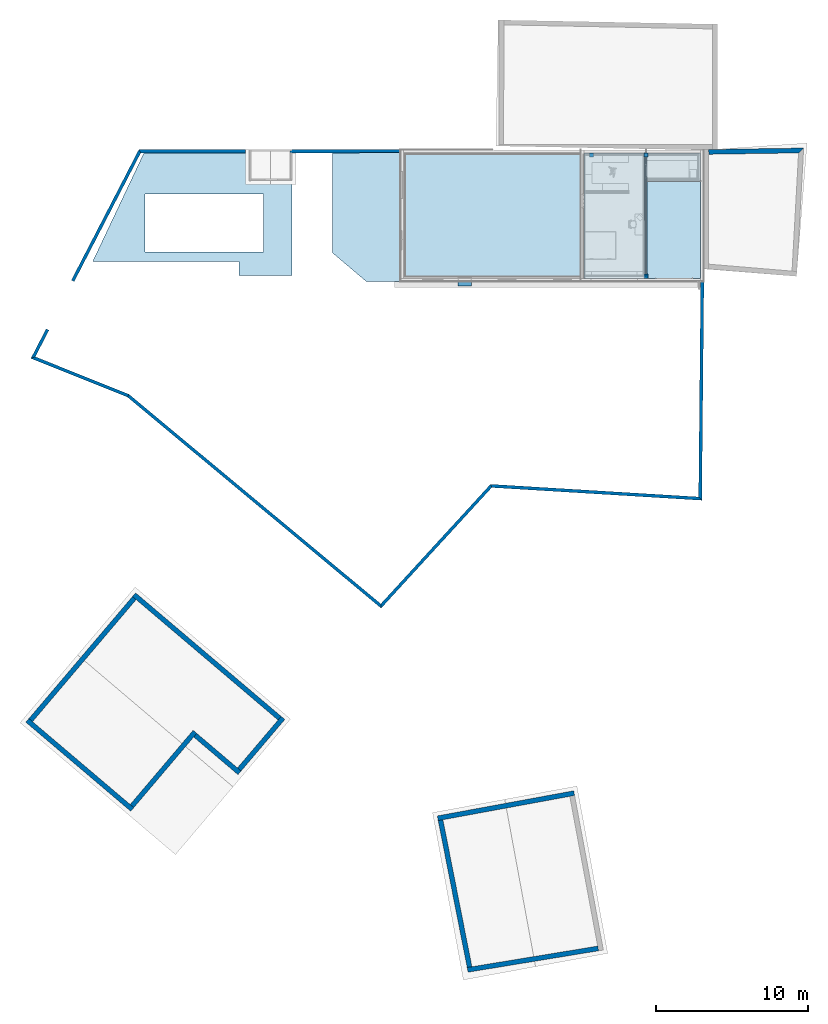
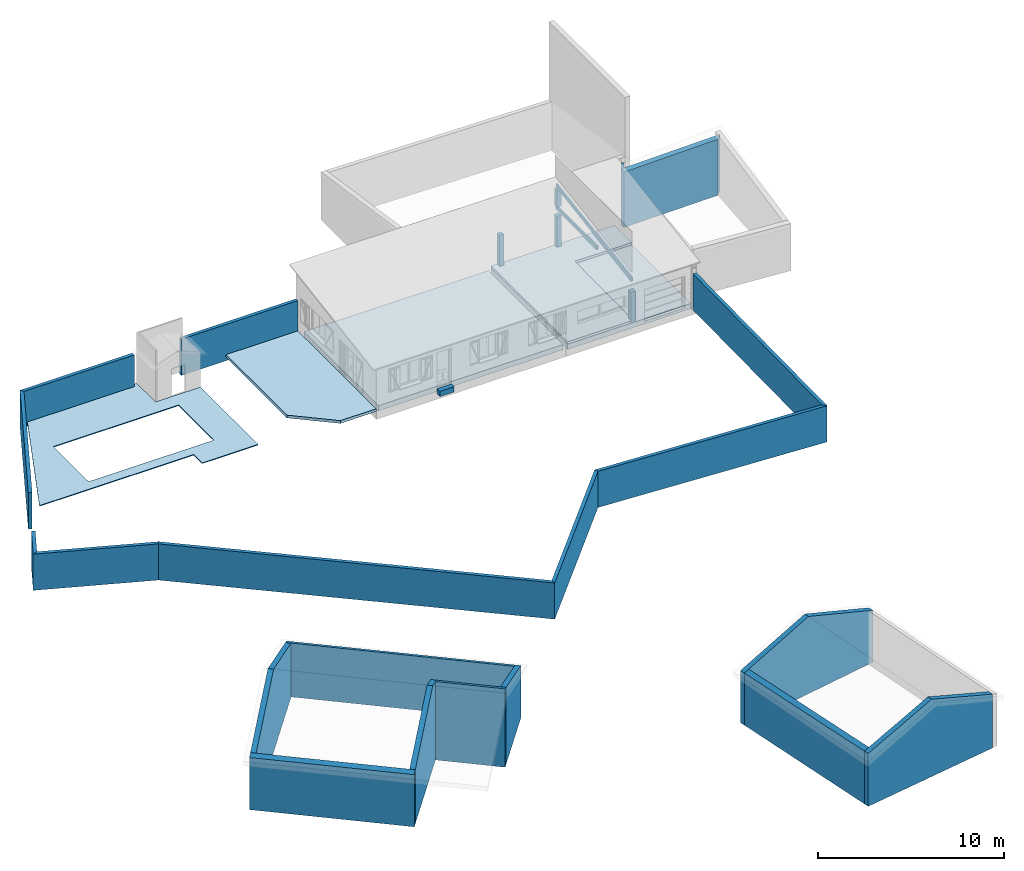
# One storey, part 1 of 24: 19 walls, 6 slabs, 4 columns, 2 beams, 1 opening.
"""IFC2X3 building model written with IfcOpenShell, lengths in metres."""

from ifc_helpers import new_model, entity, si_unit, converted_unit, derived_unit, money_unit, direction, frame, origin_with_axes, origin_2d_with_axis, place, context, subcontext, project, spatial, polyline, rectangle, outline, extrude, boolean, clip, halfspace, bounded_halfspace, faceted_brep, material, layer, layer_set, layer_usage, type_object, element, save


model = new_model("IFC2X3")

# Units and contexts
model_context = context("Model", 3, precision=1e-05, world=origin_with_axes(), true_north=direction((0.0, 1.0)))
body_context = subcontext(model_context, "Body", "Model", "MODEL_VIEW")
ifc_project = project(units=[si_unit("LENGTHUNIT", "METRE"), si_unit("AREAUNIT", "SQUARE_METRE"), si_unit("VOLUMEUNIT", "CUBIC_METRE"), converted_unit("PLANEANGLEUNIT", "DEGREE", entity("IfcPlaneAngleMeasure", 0.0174532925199), si_unit("PLANEANGLEUNIT", "RADIAN"), dimensions=[0, 0, 0, 0, 0, 0, 0]), si_unit("SOLIDANGLEUNIT", "STERADIAN"), money_unit("CHF"), converted_unit("TIMEUNIT", "Year", entity("IfcTimeMeasure", 31556926.0), si_unit("TIMEUNIT", "SECOND"), dimensions=[0, 0, 1, 0, 0, 0, 0]), si_unit("MASSUNIT", "GRAM", prefix="KILO"), si_unit("THERMODYNAMICTEMPERATUREUNIT", "DEGREE_CELSIUS"), si_unit("LUMINOUSINTENSITYUNIT", "LUMEN"), si_unit("ENERGYUNIT", "JOULE", prefix="MEGA"), derived_unit("THERMALCONDUCTANCEUNIT", [(si_unit("POWERUNIT", "WATT"), 1), (si_unit("LENGTHUNIT", "METRE"), -1), (si_unit("THERMODYNAMICTEMPERATUREUNIT", "KELVIN"), -1)]), derived_unit("SPECIFICHEATCAPACITYUNIT", [(si_unit("ENERGYUNIT", "JOULE"), 1), (si_unit("MASSUNIT", "GRAM", prefix="KILO"), -1), (si_unit("THERMODYNAMICTEMPERATUREUNIT", "KELVIN"), -1)]), derived_unit("MASSDENSITYUNIT", [(si_unit("MASSUNIT", "GRAM", prefix="KILO"), 1), (si_unit("VOLUMEUNIT", "CUBIC_METRE"), -1)])], contexts=[model_context])

# Site, building, storey
site_placement = place(None, origin_with_axes())
site = spatial("IfcSite", under=ifc_project, at=site_placement, Name="Site", CompositionType="ELEMENT")
building_placement = place(site_placement, origin_with_axes())
building = spatial("IfcBuilding", under=site, at=building_placement, Name="Bâtiment", CompositionType="ELEMENT")
storey_placement = place(building_placement, origin_with_axes())
storey = spatial("IfcBuildingStorey", under=building, at=storey_placement, Name="Rez-de-chaussée", CompositionType="ELEMENT", Elevation=0.0)

# Columns
ifc_material_1 = material(Name="Béton armé (Coulé)")
column_type = type_object("IfcColumnType", Name="Béton armé (Coulé) 270 x 270", PredefinedType="COLUMN")
column_1_placement = place(storey_placement, frame((24.1071417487, 16.0579346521, 0.0), z_axis=(0.0, 0.0, 1.0), x_axis=(1.0, 0.0, 0.0)))
element("IfcColumn", 1, at=column_1_placement, inside=storey, type_object=column_type, material=ifc_material_1, Name="POTEAU-002", ObjectType="COLUMN", context=body_context, shape_type="SweptSolid", body=[
    extrude(rectangle(XDim=0.27, YDim=0.27, at=origin_2d_with_axis()), origin_with_axes(), (0.0, 0.0, 1.0), 2.19),
])
column_2_placement = place(storey_placement, frame((27.6771417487, 16.0579346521, 0.0), z_axis=(0.0, 0.0, 1.0), x_axis=(1.0, 0.0, 0.0)))
element("IfcColumn", 2, at=column_2_placement, inside=storey, type_object=column_type, material=ifc_material_1, Name="POTEAU-002", ObjectType="COLUMN", context=body_context, shape_type="SweptSolid", body=[
    extrude(rectangle(XDim=0.27, YDim=0.27, at=origin_2d_with_axis()), origin_with_axes(), (0.0, 0.0, 1.0), 2.19400608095),
])
column_3_placement = place(storey_placement, frame((27.6771417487, 8.0879346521, 0.0), z_axis=(0.0, 0.0, 1.0), x_axis=(1.0, 0.0, 0.0)))
element("IfcColumn", 3, at=column_3_placement, inside=storey, type_object=column_type, material=ifc_material_1, Name="POTEAU-002", ObjectType="COLUMN", context=body_context, shape_type="SweptSolid", body=[
    extrude(rectangle(XDim=0.27, YDim=0.27, at=origin_2d_with_axis()), origin_with_axes(), (0.0, 0.0, 1.0), 2.03426351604),
])
column_4_placement = place(storey_placement, frame((27.6771417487, 16.0579346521, 2.79), z_axis=(0.0, 0.0, 1.0), x_axis=(1.0, 0.0, 0.0)))
element("IfcColumn", 4, at=column_4_placement, inside=storey, type_object=column_type, material=ifc_material_1, Name="POTEAU-002", ObjectType="COLUMN", context=body_context, shape_type="SweptSolid", body=[
    extrude(rectangle(XDim=0.27, YDim=0.27, at=origin_2d_with_axis()), origin_with_axes(), (0.0, 0.0, 1.0), 1.11253522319),
])

# Beams
ifc_material_2 = material(Name="Bois massif")
beam_type = type_object("IfcBeamType", Name="Bois massif 100 x 220", PredefinedType="BEAM")
beam_1_placement = place(storey_placement, frame((27.6771417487, 8.1029346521, 2.76277300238), z_axis=(0.0, 0.0, 1.0), x_axis=(1.0, 0.0, 0.0)))
element("IfcBeam", 5, at=beam_1_placement, inside=storey, type_object=beam_type, material=ifc_material_2, Name="POUTRE-003", ObjectType="BEAM", context=body_context, shape_type="Clipping", body=[
    clip(clip(extrude(rectangle(XDim=0.22, YDim=0.1, at=origin_2d_with_axis()), frame((0.0, -0.0491536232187, -0.00786433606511), z_axis=(0.0, 0.987441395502, 0.157985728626), x_axis=(0.0, -0.157985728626, 0.987441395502)), (0.0, 0.0, 1.0), 8.28727692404), halfspace(frame((0.0, 0.0, 0.0), z_axis=(0.0, 1.0, 0.0), x_axis=(0.0, 0.0, 1.0)), True)), halfspace(frame((0.0, 8.08489304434, 0.0), z_axis=(0.0, -1.0, 0.0), x_axis=(0.0, 0.0, -1.0)), True)),
])
beam_2_placement = place(storey_placement, frame((27.6521417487, 11.7627630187, 2.63156535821), z_axis=(0.0, 0.0, 1.0), x_axis=(1.0, 0.0, 0.0)))
element("IfcBeam", 6, at=beam_2_placement, inside=storey, type_object=beam_type, material=ifc_material_2, Name="POUTRE-006", ObjectType="BEAM", context=body_context, shape_type="SweptSolid", body=[
    extrude(rectangle(XDim=0.22, YDim=0.1, at=origin_2d_with_axis()), frame((0.0, 0.0, 0.0), z_axis=(0.0, 1.0, 0.0), x_axis=(0.0, 0.0, 1.0)), (0.0, 0.0, 1.0), 4.43017163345),
])

# Slabs
ifc_layer_1 = layer(ifc_material_1, 0.34, ventilated="UNKNOWN")
ifc_layer_set_1 = layer_set([ifc_layer_1], Name="Béton armé (Coulé) 0.34")
ifc_layer_usage_1 = layer_usage(ifc_layer_set_1, "AXIS3", "NEGATIVE", 0.34)
slab_type_1 = type_object("IfcSlabType", Name="Béton armé (Coulé) 340", PredefinedType="FLOOR")
slab_1_placement = place(storey_placement, frame((31.2721417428, 16.1929346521, 0.0), z_axis=(0.0, 0.0, 1.0), x_axis=(1.0, 0.0, 0.0)))
element("IfcSlab", 7, at=slab_1_placement, inside=storey, type_object=slab_type_1, material=ifc_layer_usage_1, Name="DALLE-002", PredefinedType="FLOOR", context=body_context, shape_type="SweptSolid", body=[
    extrude(outline(polyline([(0.0, 0.0), (-7.66999999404, 0.0), (-7.66999999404, -8.24), (0.0, -8.24), (0.0, 0.0)])), frame((0.0, 0.0, -0.34), z_axis=(0.0, 0.0, 1.0), x_axis=(1.0, 0.0, 0.0)), (0.0, 0.0, 1.0), 0.34),
])
ifc_layer_usage_2 = layer_usage(ifc_layer_set_1, "AXIS3", "NEGATIVE", 0.34)
slab_2_placement = place(storey_placement, frame((15.3471417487, 7.4379346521, 0.1), z_axis=(0.0, 0.0, 1.0), x_axis=(1.0, 0.0, 0.0)))
element("IfcSlab", 8, at=slab_2_placement, inside=storey, type_object=slab_type_1, material=ifc_layer_usage_2, Name="DALLE-004", PredefinedType="FLOOR", context=body_context, shape_type="SweptSolid", body=[
    extrude(outline(polyline([(0.0, 0.0), (0.9, 0.0), (0.9, 0.3), (0.0, 0.3), (0.0, 0.0)])), frame((0.0, 0.0, -0.34), z_axis=(0.0, 0.0, 1.0), x_axis=(1.0, 0.0, 0.0)), (0.0, 0.0, 1.0), 0.34),
])
ifc_layer_usage_3 = layer_usage(ifc_layer_set_1, "AXIS3", "NEGATIVE", 0.34)
slab_3_placement = place(storey_placement, frame((11.8821417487, 8.0529346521, 0.0), z_axis=(0.0, 0.0, 1.0), x_axis=(1.0, 0.0, 0.0)))
element("IfcSlab", 9, at=slab_3_placement, inside=storey, type_object=slab_type_1, material=ifc_layer_usage_3, Name="DALLE-002", PredefinedType="FLOOR", context=body_context, shape_type="SweptSolid", body=[
    extrude(outline(polyline([(0.0, 0.0), (11.505, 0.0), (11.505, 8.03999994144), (0.0, 8.03999994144), (0.0, 0.0)])), frame((0.0, 0.0, -0.34), z_axis=(0.0, 0.0, 1.0), x_axis=(1.0, 0.0, 0.0)), (0.0, 0.0, 1.0), 0.34),
])
ifc_material_3 = material(Name="Bois - Liteaux")
ifc_layer_2 = layer(ifc_material_3, 0.183233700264, ventilated="UNKNOWN")
ifc_layer_set_2 = layer_set([ifc_layer_2], Name="Bois - Liteaux 0.183234")
ifc_layer_usage_4 = layer_usage(ifc_layer_set_2, "AXIS3", "NEGATIVE", 0.183233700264)
slab_type_2 = type_object("IfcSlabType", Name="Bois - Liteaux 183", PredefinedType="FLOOR")
slab_4_placement = place(storey_placement, frame((9.3325351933, 7.7379346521, 0.1), z_axis=(0.0, 0.0, 1.0), x_axis=(1.0, 0.0, 0.0)))
element("IfcSlab", 10, at=slab_4_placement, inside=storey, type_object=slab_type_2, material=ifc_layer_usage_4, Name="DALLE-003", PredefinedType="FLOOR", context=body_context, shape_type="SweptSolid", body=[
    extrude(outline(polyline([(0.0, 0.0), (2.23460655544, 0.0), (2.23460655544, 8.67), (-2.23460655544, 8.67), (-2.23460655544, 1.89373242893), (0.0, 0.0)])), frame((0.0, 0.0, -0.183233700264), z_axis=(0.0, 0.0, 1.0), x_axis=(1.0, 0.0, 0.0)), (0.0, 0.0, 1.0), 0.183233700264),
])

# Slab, opening
ifc_material_4 = material(Name="Dallage pierre")
ifc_layer_3 = layer(ifc_material_4, 0.054, ventilated="UNKNOWN")
ifc_layer_set_3 = layer_set([ifc_layer_3], Name="Dallage pierre 0.054")
ifc_layer_usage_5 = layer_usage(ifc_layer_set_3, "AXIS3", "NEGATIVE", 0.054)
slab_type_3 = type_object("IfcSlabType", Name="Dallage pierre 54", PredefinedType="FLOOR")
slab_5_placement = place(storey_placement, frame((-8.635027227, 9.05590577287, 0.0), z_axis=(0.0, 0.0, 1.0), x_axis=(1.0, 0.0, 0.0)))
slab_5 = element("IfcSlab", 11, at=slab_5_placement, inside=storey, type_object=slab_type_3, material=ifc_layer_usage_5, Name="DALLE-004", PredefinedType="FLOOR", context=body_context, shape_type="SweptSolid", body=[
    extrude(outline(polyline([(0.0, 0.0), (9.59721576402, 0.0), (9.59721576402, -0.909475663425), (13.0835391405, -0.909475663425), (13.0835391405, 5.31354311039), (10.2915257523, 5.31354304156), (10.2915257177, 7.34605666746), (3.46774623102, 7.34469052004), (0.0, 0.0)])), frame((0.0, 0.0, -0.054), z_axis=(0.0, 0.0, 1.0), x_axis=(1.0, 0.0, 0.0)), (0.0, 0.0, 1.0), 0.054),
])
opening_placement = place(slab_5_placement, frame((3.42559937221, 4.43073908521, 0.0), z_axis=(0.0, 0.0, 1.0), x_axis=(0.0, -1.0, 0.0)))
element("IfcOpeningElement", 12, at=opening_placement, cuts=slab_5, Name="Ouverture de dalle", context=body_context, shape_type="SweptSolid", body=[
    extrude(outline(polyline([(0.0, 0.0), (3.8, 0.0), (3.8, 7.8), (0.0, 7.8), (0.0, 0.0)])), frame((0.0, 0.0, -0.054), z_axis=(0.0, 0.0, 1.0), x_axis=(1.0, 0.0, 0.0)), (0.0, 0.0, 1.0), 0.054),
])

# Slab
ifc_material_5 = material(Name="Finition sol - Carrelage")
ifc_layer_4 = layer(ifc_material_5, 0.015, ventilated="UNKNOWN")
ifc_material_6 = material(Name="Chape ciment")
ifc_layer_5 = layer(ifc_material_6, 0.045, ventilated="UNKNOWN")
ifc_material_7 = material(Name="Isolation - Polyuréthane (intérieur)")
ifc_layer_6 = layer(ifc_material_7, 0.1, ventilated="UNKNOWN")
ifc_layer_set_4 = layer_set([ifc_layer_4, ifc_layer_5, ifc_layer_6], Name="5.0b - Chapes: Isol + béton + revêt 15 cm copie")
ifc_layer_usage_6 = layer_usage(ifc_layer_set_4, "AXIS3", "NEGATIVE", 0.16)
slab_type_4 = type_object("IfcSlabType", Name="5.0b - Chapes: Isol + béton + revêt 15 cm copie 160", PredefinedType="FLOOR")
slab_6_placement = place(storey_placement, frame((31.2721417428, 16.1929346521, 0.16), z_axis=(0.0, 0.0, 1.0), x_axis=(1.0, 0.0, 0.0)))
element("IfcSlab", 13, at=slab_6_placement, inside=storey, type_object=slab_type_4, material=ifc_layer_usage_6, Name="DALLE-002", PredefinedType="FLOOR", context=body_context, shape_type="SweptSolid", body=[
    extrude(outline(polyline([(0.0, 0.0), (-7.66999999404, 0.0), (-7.66999999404, -8.24), (-3.59499999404, -8.24), (-3.54499999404, -1.88140958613), (5.96046945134e-09, -1.88140958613), (0.0, 0.0)])), frame((0.0, 0.0, -0.16), z_axis=(0.0, 0.0, 1.0), x_axis=(1.0, 0.0, 0.0)), (0.0, 0.0, 1.0), 0.16),
])

# Walls
ifc_material_8 = material(Name="Volume - Etude")
ifc_layer_7 = layer(ifc_material_8, 0.315, ventilated="UNKNOWN")
ifc_layer_set_5 = layer_set([ifc_layer_7], Name="Volume - Etude 0.315")
ifc_layer_usage_7 = layer_usage(ifc_layer_set_5, "AXIS2", "POSITIVE", 0.0)
wall_type_1 = type_object("IfcWallType", Name="Volume - Etude 315", PredefinedType="ELEMENTEDWALL")
wall_1_placement = place(storey_placement, frame((38.0341147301, 16.5043029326, -0.13), z_axis=(0.0, 0.0, 1.0), x_axis=(-0.999880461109, -0.0154616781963, 0.0)))
element("IfcWallStandardCase", 14, at=wall_1_placement, inside=storey, type_object=wall_type_1, material=ifc_layer_usage_7, Name="MUR_EXT-028", ObjectType="ELEMENTEDWALL", context=body_context, shape_type="Clipping", body=[
    clip(extrude(outline(polyline([(0.0, 0.0), (6.23271803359, 0.0), (6.23271803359, 0.315), (0.338126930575, 0.315), (0.0, 0.0)])), origin_with_axes(), (0.0, 0.0, 1.0), 4.04002765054), bounded_halfspace(frame((0.0276620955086, 0.390112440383, 3.68326103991), z_axis=(-0.00746823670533, -0.105322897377, -0.994410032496), x_axis=(0.0, 0.994437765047, -0.105325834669)), True, origin_with_axes(), polyline([(-6.27842926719, -0.01), (5.83476852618, -0.01), (12.1321013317, 0.315), (12.1321013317, 0.325), (0.0189035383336, 0.325), (-6.27842926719, 0.0), (-6.27842926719, -0.01)]))),
])
wall_2_placement = place(storey_placement, frame((-13.0246922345, -21.1850699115, -0.13), z_axis=(0.0, 0.0, 1.0), x_axis=(0.762532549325, -0.646949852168, 0.0)))
element("IfcWall", 15, at=wall_2_placement, inside=storey, type_object=wall_type_1, material=ifc_material_8, Name="MUR_EXT-011", ObjectType="ELEMENTEDWALL", context=body_context, shape_type="CSG", body=[
    boolean("DIFFERENCE", extrude(outline(polyline([(0.0, 0.0), (9.03240382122, 0.0), (9.03240382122, 0.315), (0.0, 0.315), (0.0, 0.0)])), origin_with_axes(), (0.0, 0.0, 1.0), 8.27830126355), faceted_brep([(9.03240382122, 0.0, 3.42995844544), (9.0324018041, 0.315, 3.54460906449), (9.03240382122, 0.315, 8.27830126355), (9.03240382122, 0.0, 8.27830126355), (8.85817085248e-05, 0.315, 3.54368458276), (0.0, 0.0, 3.42903395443), (8.85817085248e-05, 0.315, 0.0), (0.0, 0.315, 0.0), (0.0, 0.315, 8.27830126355), (0.0, 0.0, 8.27830126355), (0.0, 0.0, 0.0)], [[[0, 1, 2, 3]], [[4, 1, 0, 5]], [[4, 6, 7, 8, 2, 1]], [[8, 9, 3, 2]], [[5, 0, 3, 9]], [[6, 4, 5, 10]], [[6, 10, 7]], [[10, 5, 9, 8, 7]]])),
])
wall_3_placement = place(storey_placement, frame((-6.13719032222, -27.0285822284, -0.13), z_axis=(0.0, 0.0, 1.0), x_axis=(0.646944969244, 0.762536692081, 0.0)))
element("IfcWall", 16, at=wall_3_placement, inside=storey, type_object=wall_type_1, material=ifc_material_8, Name="MUR_EXT-012", ObjectType="ELEMENTEDWALL", context=body_context, shape_type="CSG", body=[
    boolean("DIFFERENCE", extrude(outline(polyline([(0.0, 0.0), (6.70225243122, 0.0), (6.70225243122, 0.315), (0.0, 0.315), (0.0, 0.0)])), origin_with_axes(), (0.0, 0.0, 1.0), 8.27830126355), faceted_brep([(0.315000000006, 0.0, 3.54460906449), (5.5660208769, 0.0, 5.45582428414), (6.70219431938, 0.0, 5.04229098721), (6.70219431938, 0.0, 0.0), (6.70225243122, 0.0, 0.0), (6.70225243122, 0.0, 8.27830126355), (0.0, 0.0, 8.27830126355), (0.0, 0.0, 0.0), (0.315000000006, 0.0, 0.0), (0.315002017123, 0.315, 3.54457682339), (5.56611147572, 0.315, 5.45582428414), (6.70225243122, 0.315, 5.04230281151), (6.70225243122, 0.315, 0.0), (6.70225243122, 0.315, 8.27830126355), (0.0, 0.315, 8.27830126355), (0.0, 0.315, 0.0), (0.315002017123, 0.315, 0.0)], [[[0, 1, 2, 3, 4, 5, 6, 7, 8]], [[1, 0, 9, 10]], [[2, 1, 10, 11]], [[3, 2, 11, 12]], [[3, 12, 4]], [[12, 11, 13, 5, 4]], [[14, 6, 5, 13]], [[14, 15, 7, 6]], [[16, 8, 7, 15]], [[0, 8, 16, 9]], [[9, 16, 15, 14, 13, 11, 10]]])),
])
wall_4_placement = place(storey_placement, frame((-2.00502709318, -22.1581122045, -0.13), z_axis=(0.0, 0.0, 1.0), x_axis=(0.762417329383, -0.647085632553, 0.0)))
element("IfcWall", 17, at=wall_4_placement, inside=storey, type_object=wall_type_1, material=ifc_material_8, Name="MUR_EXT-013", ObjectType="ELEMENTEDWALL", context=body_context, shape_type="CSG", body=[
    boolean("DIFFERENCE", extrude(outline(polyline([(-0.315058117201, 0.0), (3.81435050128, 0.0), (3.81435050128, 0.315), (-0.315058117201, 0.315), (-0.315058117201, 0.0)])), origin_with_axes(), (0.0, 0.0, 1.0), 8.27830126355), faceted_brep([(3.81435050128, 0.315, 0.0), (3.81435050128, 0.315, 5.04214780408), (3.81435050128, 0.315, 8.27830126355), (3.81435050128, 0.0, 8.27830126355), (3.81435050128, 0.0, 0.0), (3.81420077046, 0.0, 0.0), (3.81420077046, 0.0, 5.15679843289), (-5.81118409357e-05, 0.315, 5.04229098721), (-5.81118409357e-05, 0.315, 0.0), (-0.315058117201, 0.315, 0.0), (-0.315058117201, 0.315, 8.27830126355), (-0.315058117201, 0.0, 8.27830126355), (-0.315058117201, 0.0, 0.0), (0.0, 0.0, 0.0), (0.0, 0.0, 5.15694160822)], [[[0, 1, 2, 3, 4]], [[1, 0, 5, 6]], [[7, 8, 9, 10, 2, 1]], [[10, 11, 3, 2]], [[6, 5, 4, 3, 11, 12, 13, 14]], [[5, 0, 4]], [[7, 1, 6, 14]], [[8, 7, 14, 13]], [[8, 13, 12, 9]], [[10, 9, 12, 11]]])),
])
wall_5_placement = place(storey_placement, frame((0.902985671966, -24.6262267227, -0.13), z_axis=(0.0, 0.0, 1.0), x_axis=(0.647447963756, 0.762109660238, 0.0)))
element("IfcWall", 18, at=wall_5_placement, inside=storey, type_object=wall_type_1, material=ifc_material_8, Name="MUR_EXT-014", ObjectType="ELEMENTEDWALL", context=body_context, shape_type="CSG", body=[
    boolean("DIFFERENCE", extrude(outline(polyline([(-0.000149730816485, 0.0), (4.74950847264, 0.0), (4.74950847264, 0.315), (-0.000149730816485, 0.315), (-0.000149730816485, 0.0)])), origin_with_axes(), (0.0, 0.0, 1.0), 8.27830126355), faceted_brep([(0.315000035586, 0.0, 0.0), (0.315000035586, 0.0, 5.04214780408), (4.74950847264, 0.0, 3.42811884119), (4.74950847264, 0.0, 8.27830126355), (-0.000149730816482, 0.0, 8.27830126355), (-0.000149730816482, 0.0, 0.0), (0.31485030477, 0.315, 0.0), (0.31485030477, 0.315, 5.04215962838), (4.74932957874, 0.315, 3.42814127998), (4.74950847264, 0.0, 0.0), (4.74950847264, 0.315, 0.0), (4.74950847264, 0.315, 8.27830126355), (-0.000149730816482, 0.315, 8.27830126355), (-0.000149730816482, 0.315, 0.0), (4.74932957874, 0.315, 0.0)], [[[0, 1, 2, 3, 4, 5]], [[1, 0, 6, 7]], [[2, 1, 7, 8]], [[2, 9, 10, 11, 3]], [[12, 4, 3, 11]], [[12, 13, 5, 4]], [[6, 0, 5, 13]], [[7, 6, 13, 12, 11, 10, 14, 8]], [[9, 2, 8, 14]], [[9, 14, 10]]])),
])
wall_6_placement = place(storey_placement, frame((3.97804526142, -21.0065804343, -0.13), z_axis=(0.0, 0.0, 1.0), x_axis=(-0.762477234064, 0.647015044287, 0.0)))
element("IfcWall", 19, at=wall_6_placement, inside=storey, type_object=wall_type_1, material=ifc_material_8, Name="MUR_EXT-015", ObjectType="ELEMENTEDWALL", context=body_context, shape_type="CSG", body=[
    boolean("DIFFERENCE", extrude(outline(polyline([(0.0, 0.0), (12.8465968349, 0.0), (12.8465968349, 0.315), (0.0, 0.315), (0.0, 0.0)])), origin_with_axes(), (0.0, 0.0, 1.0), 8.27830126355), faceted_brep([(12.8465351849, 0.0, 3.42903395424), (12.8465351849, 0.0, 0.0), (12.8465968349, 0.0, 0.0), (12.8465968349, 0.0, 8.27830126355), (0.0, 0.0, 8.27830126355), (0.0, 0.0, 0.0), (0.315000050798, 0.0, 0.0), (0.315000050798, 0.0, 3.42814127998), (12.8465968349, 0.315, 3.54368458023), (12.8465968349, 0.315, 0.0), (12.8465968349, 0.315, 8.27830126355), (0.0, 0.315, 8.27830126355), (0.0, 0.315, 0.0), (0.315178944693, 0.315, 0.0), (0.315178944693, 0.315, 3.54279191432)], [[[0, 1, 2, 3, 4, 5, 6, 7]], [[1, 0, 8, 9]], [[1, 9, 2]], [[9, 8, 10, 3, 2]], [[11, 4, 3, 10]], [[11, 12, 5, 4]], [[13, 6, 5, 12]], [[7, 6, 13, 14]], [[0, 7, 14, 8]], [[14, 13, 12, 11, 10, 8]]])),
])
wall_7_placement = place(storey_placement, frame((-5.81714535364, -12.6946789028, -0.13), z_axis=(0.0, 0.0, 1.0), x_axis=(-0.64716425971, -0.762350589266, 0.0)))
element("IfcWall", 20, at=wall_7_placement, inside=storey, type_object=wall_type_1, material=ifc_material_8, Name="MUR_EXT-016", ObjectType="ELEMENTEDWALL", context=body_context, shape_type="CSG", body=[
    boolean("DIFFERENCE", extrude(outline(polyline([(-6.16500535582e-05, 0.0), (11.1371213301, 0.0), (11.1371213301, 0.315), (-6.16500535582e-05, 0.315), (-6.16500535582e-05, 0.0)])), origin_with_axes(), (0.0, 0.0, 1.0), 8.27830126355), faceted_brep([(10.822032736, 0.315, 3.54371682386), (5.56856066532, 0.315, 5.45582428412), (0.314938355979, 0.315, 3.54366214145), (0.314938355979, 0.315, 0.0), (-6.16500535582e-05, 0.315, 0.0), (-6.16500535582e-05, 0.315, 8.27830126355), (11.1371213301, 0.315, 8.27830126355), (11.1371213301, 0.315, 0.0), (10.822032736, 0.315, 0.0), (10.8221213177, 0.0, 3.54368458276), (5.56856066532, 0.0, 5.45582428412), (0.315000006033, 0.0, 3.54368458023), (0.315000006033, 0.0, 0.0), (-6.16500535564e-05, 0.0, 0.0), (-6.16500535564e-05, 0.0, 8.27830126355), (11.1371213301, 0.0, 8.27830126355), (11.1371213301, 0.0, 0.0), (10.8221213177, 0.0, 0.0)], [[[0, 1, 2, 3, 4, 5, 6, 7, 8]], [[1, 0, 9, 10]], [[2, 1, 10, 11]], [[3, 2, 11, 12]], [[3, 12, 13, 4]], [[5, 4, 13, 14]], [[5, 14, 15, 6]], [[15, 16, 7, 6]], [[17, 8, 7, 16]], [[0, 8, 17, 9]], [[9, 17, 16, 15, 14, 13, 12, 11, 10]]])),
])
wall_8_placement = place(storey_placement, frame((14.3569809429, -27.586757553, -0.13), z_axis=(0.0, 0.0, 1.0), x_axis=(0.983441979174, 0.181223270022, 0.0)))
element("IfcWall", 21, at=wall_8_placement, inside=storey, type_object=wall_type_1, material=ifc_material_8, Name="MUR_EXT-017", ObjectType="ELEMENTEDWALL", context=body_context, shape_type="CSG", body=[
    boolean("DIFFERENCE", extrude(outline(polyline([(-0.318974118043, 0.0), (8.7838549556, 0.0), (8.7838549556, 0.315), (-0.318974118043, 0.315), (-0.318974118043, 0.0)])), origin_with_axes(), (0.0, 0.0, 1.0), 8.27830126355), faceted_brep([(-0.31502475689, 0.0, 3.43047140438), (4.23212240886, 0.0, 5.08549762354), (8.7838549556, 0.0, 3.42880246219), (8.7838549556, 0.0, 8.27830126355), (-0.318974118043, 0.0, 8.27830126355), (-0.318974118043, 0.0, 0.0), (-0.31502475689, 0.0, 0.0), (-0.318974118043, 0.315, 3.42903395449), (4.23212240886, 0.315, 5.08549762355), (8.78321893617, 0.315, 3.42903395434), (8.7838549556, 0.0, 0.0), (8.7838549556, 0.315, 0.0), (8.7838549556, 0.315, 8.27830126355), (-0.318974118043, 0.315, 8.27830126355), (-0.318974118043, 0.315, 0.0), (8.78321893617, 0.315, 0.0)], [[[0, 1, 2, 3, 4, 5, 6]], [[1, 0, 7, 8]], [[2, 1, 8, 9]], [[2, 10, 11, 12, 3]], [[13, 4, 3, 12]], [[7, 14, 5, 4, 13]], [[14, 6, 5]], [[0, 6, 14, 7]], [[8, 7, 13, 12, 11, 15, 9]], [[10, 2, 9, 15]], [[10, 15, 11]]])),
])
wall_9_placement = place(storey_placement, frame((24.5169964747, -35.8790044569, -0.13), z_axis=(0.0, 0.0, 1.0), x_axis=(-0.98679490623, -0.161974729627, 0.0)))
element("IfcWall", 22, at=wall_9_placement, inside=storey, type_object=wall_type_1, material=ifc_material_8, Name="MUR_EXT-019", ObjectType="ELEMENTEDWALL", context=body_context, shape_type="CSG", body=[
    boolean("DIFFERENCE", extrude(outline(polyline([(-0.321864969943, 0.0), (8.68251793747, 0.0), (8.68251793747, 0.315), (-0.321864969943, 0.315), (-0.321864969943, 0.0)])), origin_with_axes(), (0.0, 0.0, 1.0), 8.27830126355), faceted_brep([(8.67241062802, 0.315, 3.47675125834), (4.25157249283, 0.315, 5.08549762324), (-0.00679175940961, 0.315, 3.53587562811), (-0.00679175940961, 0.315, 0.0), (-0.321864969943, 0.315, 0.0), (-0.321864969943, 0.315, 8.27830126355), (8.68251793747, 0.315, 8.27830126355), (8.68251793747, 0.315, 0.0), (8.67241062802, 0.315, 0.0), (8.68251793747, 0.0, 3.4753131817), (4.25772796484, 0.0, 5.08549762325), (0.0, 0.0, 3.53610717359), (0.0, 0.0, 0.0), (-0.321864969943, 0.0, 0.0), (-0.321864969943, 0.0, 8.27830126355), (8.68251793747, 0.0, 8.27830126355), (8.68251793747, 0.0, 0.0)], [[[0, 1, 2, 3, 4, 5, 6, 7, 8]], [[1, 0, 9, 10]], [[2, 1, 10, 11]], [[3, 2, 11, 12]], [[3, 12, 13, 4]], [[5, 4, 13, 14]], [[5, 14, 15, 6]], [[9, 16, 7, 6, 15]], [[16, 8, 7]], [[0, 8, 16, 9]], [[10, 9, 15, 14, 13, 12, 11]]])),
])
wall_10_placement = place(storey_placement, frame((16.2601323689, -37.2343046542, -0.13), z_axis=(0.0, 0.0, 1.0), x_axis=(-0.193538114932, 0.981092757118, 0.0)))
element("IfcWall", 23, at=wall_10_placement, inside=storey, type_object=wall_type_1, material=ifc_material_8, Name="MUR_EXT-020", ObjectType="ELEMENTEDWALL", context=body_context, shape_type="CSG", body=[
    boolean("DIFFERENCE", extrude(outline(polyline([(-0.315162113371, 0.0), (10.1524450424, 0.0), (10.1524450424, 0.315), (-0.315162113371, 0.315), (-0.315162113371, 0.0)])), origin_with_axes(), (0.0, 0.0, 1.0), 8.27830126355), faceted_brep([(9.83347092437, 0.0, 3.54513103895), (9.83347092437, 0.0, 0.0), (10.1524450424, 0.0, 0.0), (10.1524450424, 0.0, 8.27830126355), (-0.315162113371, 0.0, 8.27830126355), (-0.315162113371, 0.0, 0.0), (0.0, 0.0, 0.0), (0.0, 0.0, 3.59000091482), (9.83742028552, 0.315, 3.43047140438), (9.83742028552, 0.315, 0.0), (10.1524450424, 0.315, 0.0), (10.1524450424, 0.315, 8.27830126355), (-0.315162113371, 0.315, 8.27830126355), (-0.315162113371, 0.315, 0.0), (0.0101073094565, 0.315, 0.0), (0.0101073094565, 0.315, 3.4753131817)], [[[0, 1, 2, 3, 4, 5, 6, 7]], [[1, 0, 8, 9]], [[1, 9, 10, 2]], [[3, 2, 10, 11]], [[12, 4, 3, 11]], [[12, 13, 5, 4]], [[14, 6, 5, 13]], [[7, 6, 14, 15]], [[0, 7, 15, 8]], [[15, 14, 13, 12, 11, 10, 9, 8]]])),
])
ifc_material_9 = material(Name="Finition int - Enduit plâtre")
ifc_layer_8 = layer(ifc_material_9, 0.015, ventilated="UNKNOWN")
ifc_material_10 = material(Name="Béton armé (Banché)")
ifc_layer_9 = layer(ifc_material_10, 0.18, ventilated="UNKNOWN")
ifc_layer_10 = layer(ifc_material_9, 0.015, ventilated="UNKNOWN")
ifc_layer_set_6 = layer_set([ifc_layer_8, ifc_layer_9, ifc_layer_10], Name="2.0 - Refend: béton + enduit plâtre 2 faces")
ifc_layer_usage_8 = layer_usage(ifc_layer_set_6, "AXIS2", "NEGATIVE", 2.77555756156e-17)
wall_type_2 = type_object("IfcWallType", Name="2.0 - Refend: béton + enduit plâtre 2 faces 210", PredefinedType="ELEMENTEDWALL")
wall_11_placement = place(storey_placement, frame((-6.35944422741, 0.158640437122, -0.3), z_axis=(0.0, 0.0, 1.0), x_axis=(-0.928310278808, 0.371806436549, 0.0)))
element("IfcWallStandardCase", 24, at=wall_11_placement, inside=storey, type_object=wall_type_2, material=ifc_layer_usage_8, Name="MUR_EXT-032", ObjectType="ELEMENTEDWALL", context=body_context, shape_type="SweptSolid", body=[
    extrude(outline(polyline([(-0.0331490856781, -0.21), (6.59180769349, -0.21), (6.82309360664, 0.0), (0.0, 0.0), (-0.0331490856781, -0.21)])), origin_with_axes(), (0.0, 0.0, 1.0), 2.38277264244),
])
ifc_layer_usage_9 = layer_usage(ifc_layer_set_6, "AXIS2", "NEGATIVE", 2.77555756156e-17)
wall_12_placement = place(storey_placement, frame((31.4871417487, 7.7379346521, -0.3), z_axis=(0.0, 0.0, 1.0), x_axis=(-0.00975139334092, -0.999952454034, 0.0)))
element("IfcWallStandardCase", 25, at=wall_12_placement, inside=storey, type_object=wall_type_2, material=ifc_layer_usage_9, Name="MUR_EXT-029", ObjectType="ELEMENTEDWALL", context=body_context, shape_type="SweptSolid", body=[
    extrude(outline(polyline([(0.0, -0.21), (14.1359414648, -0.21), (14.3569314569, 0.0), (0.0, 0.0), (0.0, -0.21)])), origin_with_axes(), (0.0, 0.0, 1.0), 2.38277264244),
])
ifc_layer_usage_10 = layer_usage(ifc_layer_set_6, "AXIS2", "NEGATIVE", 2.77555756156e-17)
wall_13_placement = place(storey_placement, frame((31.3471416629, -6.61831419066, -0.3), z_axis=(0.0, 0.0, 1.0), x_axis=(-0.998155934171, 0.0607019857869, 0.0)))
element("IfcWallStandardCase", 26, at=wall_13_placement, inside=storey, type_object=wall_type_2, material=ifc_layer_usage_10, Name="MUR_EXT-029", ObjectType="ELEMENTEDWALL", context=body_context, shape_type="SweptSolid", body=[
    extrude(outline(polyline([(0.220989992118, -0.21), (13.9080704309, -0.21), (13.8080154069, 0.0), (0.0, 0.0), (0.220989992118, -0.21)])), origin_with_axes(), (0.0, 0.0, 1.0), 2.38277264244),
])
ifc_layer_usage_11 = layer_usage(ifc_layer_set_6, "AXIS2", "NEGATIVE", 2.77555756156e-17)
wall_14_placement = place(storey_placement, frame((17.5645891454, -5.78014023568, -0.3), z_axis=(0.0, 0.0, 1.0), x_axis=(-0.675962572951, -0.736935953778, 0.0)))
element("IfcWallStandardCase", 27, at=wall_14_placement, inside=storey, type_object=wall_type_2, material=ifc_layer_usage_11, Name="MUR_EXT-030", ObjectType="ELEMENTEDWALL", context=body_context, shape_type="SweptSolid", body=[
    extrude(outline(polyline([(-0.10005502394, -0.21), (10.5511731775, -0.21), (10.7512887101, 0.0), (0.0, 0.0), (-0.10005502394, -0.21)])), origin_with_axes(), (0.0, 0.0, 1.0), 2.38277264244),
])
ifc_layer_usage_12 = layer_usage(ifc_layer_set_6, "AXIS2", "NEGATIVE", 2.77555756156e-17)
wall_15_placement = place(storey_placement, frame((10.2971203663, -13.7031514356, -0.3), z_axis=(0.0, 0.0, 1.0), x_axis=(-0.768645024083, 0.639675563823, 0.0)))
element("IfcWallStandardCase", 28, at=wall_15_placement, inside=storey, type_object=wall_type_2, material=ifc_layer_usage_12, Name="MUR_EXT-031", ObjectType="ELEMENTEDWALL", context=body_context, shape_type="SweptSolid", body=[
    extrude(outline(polyline([(0.200115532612, -0.21), (21.7031841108, -0.21), (21.6700350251, 0.0), (0.0, 0.0), (0.200115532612, -0.21)])), origin_with_axes(), (0.0, 0.0, 1.0), 2.38277264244),
])
ifc_layer_usage_13 = layer_usage(ifc_layer_set_6, "AXIS2", "NEGATIVE", 2.77555756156e-17)
wall_16_placement = place(storey_placement, frame((-12.6933921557, 2.69551055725, -0.3), z_axis=(0.0, 0.0, 1.0), x_axis=(0.459428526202, 0.888214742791, 0.0)))
element("IfcWallStandardCase", 29, at=wall_16_placement, inside=storey, type_object=wall_type_2, material=ifc_layer_usage_13, Name="MUR_EXT-032", ObjectType="ELEMENTEDWALL", context=body_context, shape_type="SweptSolid", body=[
    extrude(outline(polyline([(0.23128591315, -0.21), (2.19074791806, -0.21), (2.19074791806, 0.0), (0.0, 0.0), (0.23128591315, -0.21)])), origin_with_axes(), (0.0, 0.0, 1.0), 2.38277264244),
])
ifc_layer_usage_14 = layer_usage(ifc_layer_set_6, "AXIS2", "NEGATIVE", 2.77555756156e-17)
wall_17_placement = place(storey_placement, frame((-10.0369241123, 7.83126932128, -0.3), z_axis=(0.0, 0.0, 1.0), x_axis=(0.459428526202, 0.888214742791, 0.0)))
element("IfcWallStandardCase", 30, at=wall_17_placement, inside=storey, type_object=wall_type_2, material=ifc_layer_usage_14, Name="MUR_EXT-033", ObjectType="ELEMENTEDWALL", context=body_context, shape_type="SweptSolid", body=[
    extrude(outline(polyline([(0.0, -0.21), (9.51990439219, -0.21), (9.6477113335, 0.0), (0.0, 0.0), (0.0, -0.21)])), origin_with_axes(), (0.0, 0.0, 1.0), 2.38277264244),
])
ifc_layer_usage_15 = layer_usage(ifc_layer_set_6, "AXIS2", "NEGATIVE", 2.77555756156e-17)
wall_18_placement = place(storey_placement, frame((-5.60449031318, 16.4005087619, -0.3), z_axis=(0.0, 0.0, 1.0), x_axis=(1.0, 0.0, 0.0)))
element("IfcWallStandardCase", 31, at=wall_18_placement, inside=storey, type_object=wall_type_2, material=ifc_layer_usage_15, Name="MUR_EXT-034", ObjectType="ELEMENTEDWALL", context=body_context, shape_type="SweptSolid", body=[
    extrude(outline(polyline([(0.127806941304, -0.21), (6.9909888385, -0.21), (6.9909888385, 0.0), (0.0, 0.0), (0.127806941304, -0.21)])), origin_with_axes(), (0.0, 0.0, 1.0), 2.38277264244),
])
ifc_layer_usage_16 = layer_usage(ifc_layer_set_6, "AXIS2", "NEGATIVE", 2.77555756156e-17)
wall_19_placement = place(storey_placement, frame((4.32056291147, 16.4022640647, -0.3), z_axis=(0.0, 0.0, 1.0), x_axis=(0.999999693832, 0.000782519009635, 0.0)))
element("IfcWallStandardCase", 32, at=wall_19_placement, inside=storey, type_object=wall_type_2, material=ifc_layer_usage_16, Name="MUR_EXT-035", ObjectType="ELEMENTEDWALL", context=body_context, shape_type="SweptSolid", body=[
    extrude(outline(polyline([(0.0, -0.21), (7.2464167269, -0.21), (7.24658105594, 0.0), (0.0, 0.0), (0.0, -0.21)])), origin_with_axes(), (0.0, 0.0, 1.0), 2.38277264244),
])

save(model, "model.ifc")
